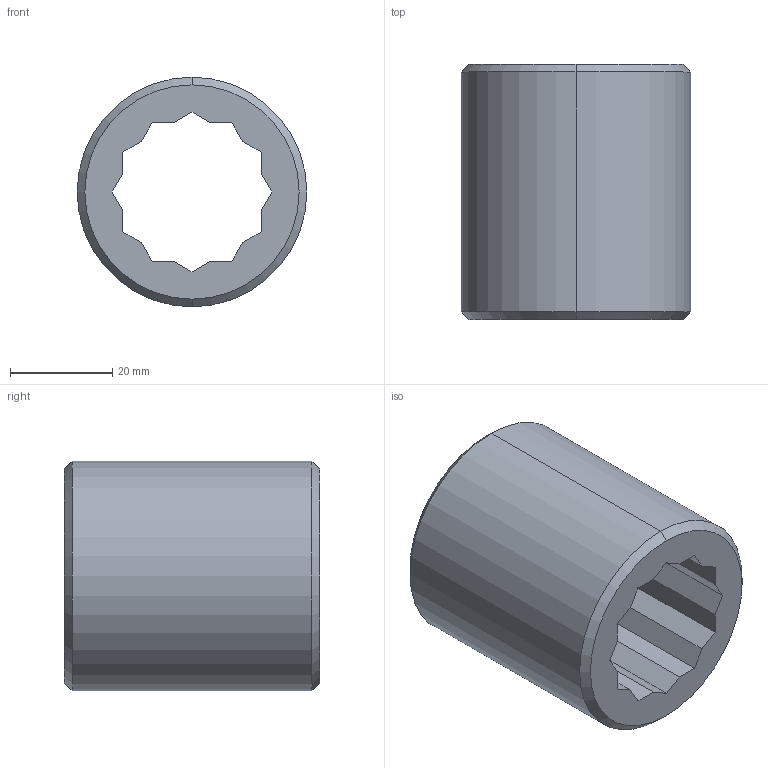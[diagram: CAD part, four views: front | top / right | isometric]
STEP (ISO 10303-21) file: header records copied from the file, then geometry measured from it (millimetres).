
FILE_DESCRIPTION (( 'STEP AP203' ), '1' );
FILE_NAME ('买箅赅 磬 27.1 磬 铉棹 step.STEP', '2026-10-21T04:38:43', ( '' ), ( '' ), 'SwSTEP 2.0', 'SolidWorks 2021', '' );
FILE_SCHEMA (( 'CONFIG_CONTROL_DESIGN' ));
Length unit declared in the file: millimetre
Products named in the file (1): 买箅赅 磬 27.1 磬 铉棹 step
Bounding box: 45 x 50 x 45 mm (x, y, z)
Volume: 45126.5 mm3; surface area: 13662.6 mm2
Topology: 1 solids, 1 shells, 32 faces, 86 edges, 56 vertices
Faces by surface type: plane 26, cone 4, cylinder 2
Entity records: 1067 total; most frequent: CARTESIAN_POINT 175, ORIENTED_EDGE 172, DIRECTION 160, EDGE_CURVE 86, VECTOR 78, LINE 78, VERTEX_POINT 56, AXIS2_PLACEMENT_3D 41
